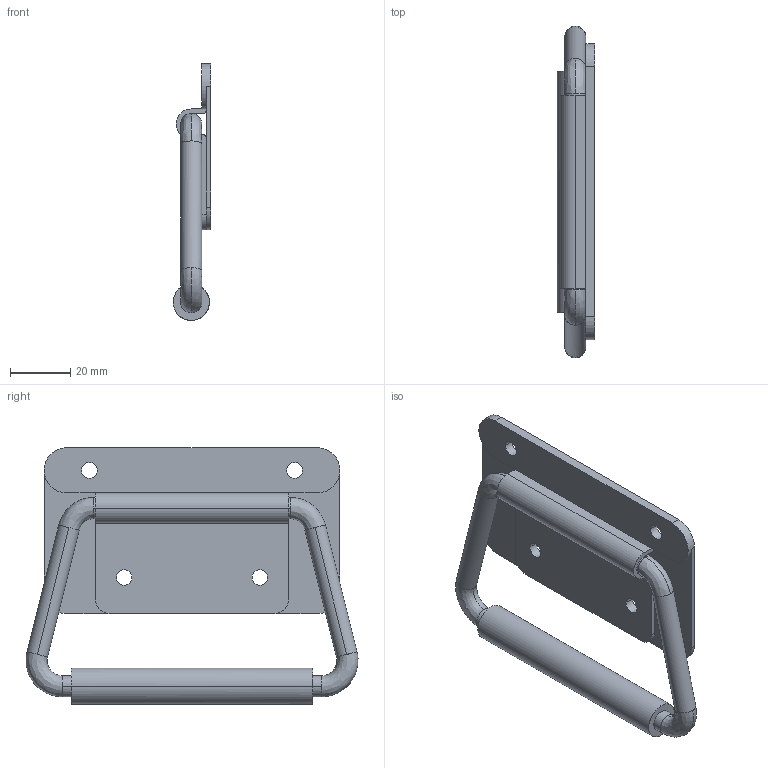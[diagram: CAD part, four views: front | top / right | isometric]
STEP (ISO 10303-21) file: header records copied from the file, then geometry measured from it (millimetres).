
FILE_DESCRIPTION((''),'2;1');
FILE_NAME('6405.stp','2023-10-09T15:37:38',(''),(''),'Mechanical Desktop 2006','Mechanical Desktop 2006',', , ');
FILE_SCHEMA(('CONFIG_CONTROL_DESIGN'));
Length unit declared in the file: millimetre
Products named in the file (1): 6405
Bounding box: 12.5 x 109.96 x 85 mm (x, y, z)
Volume: 14968.5 mm3; surface area: 21321.4 mm2
Topology: 1 solids, 1 shells, 63 faces, 210 edges, 173 vertices
Faces by surface type: bspline 26, cylinder 21, plane 16
Entity records: 2971 total; most frequent: CARTESIAN_POINT 1437, DIRECTION 227, ORIENTED_EDGE 216, QUASI_UNIFORM_CURVE 124, EDGE_CURVE 108, PCURVE 102, COMPOSITE_CURVE_SEGMENT 102, AXIS2_PLACEMENT_3D 81
